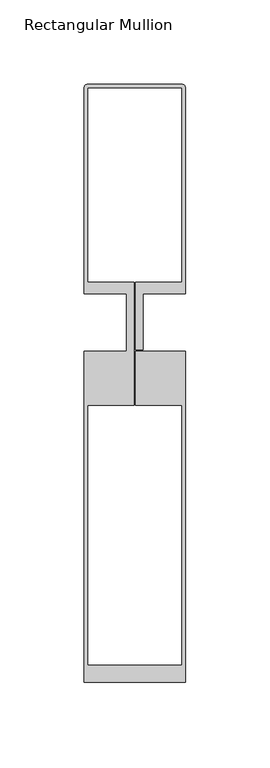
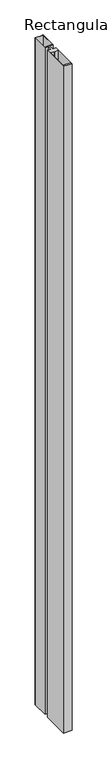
"""IFC4 building model written with IfcOpenShell, lengths in millimetres: member geometry, Rectangular Mullion : FMO60-200-S...FM60-120."""

from ifc_helpers import new_model, si_unit, point, frame, frame_2d, origin, place, context, project, spatial, polyline, circle_curve, trimmed, segment, composite_curve, outline, extrude, source, transform, mapped, element, save


def rectangular_mullion_3d548132(model_context):
    return source(origin(), model_context, "Body", "SweptSolid", [
        extrude(outline(composite_curve([segment(polyline([(-28.0, 141.0574739), (28.0, 141.0574739)]), True, "CONTINUOUS"), segment(trimmed(circle_curve(frame_2d((28.0, 139.0574739)), 2.0), [point((28.0, 141.0574739))], [point((30.0, 139.0574739))], False, "CARTESIAN"), True, "CONTINUOUS"), segment(polyline([(30.0, 139.0574739), (30.0, 17.0), (5.0, 17.0), (5.0, -16.2), (0.5, -16.2), (0.5, 23.8476589), (28.0000412, 23.8476589), (28.0000412, 139.0574739), (-28.0000412, 139.0574739), (-28.0000412, 23.8476589), (-0.5, 23.8476589), (-0.5, -49.0034642), (-28.0, -49.0034642), (-28.0, -203.009342), (28.0, -203.009342), (28.0, -49.0034642), (0.5, -49.0034642), (0.5, -17.0), (30.0, -17.0), (30.0, -213.009342), (-30.0, -213.009342), (-30.0, -17.0), (-5.0, -17.0), (-5.0, 17.0), (-30.0, 17.0), (-30.0, 139.0574739)]), True, "CONTINUOUS"), segment(trimmed(circle_curve(frame_2d((-28.0, 139.0574739)), 2.0), [point((-30.0, 139.0574739))], [point((-28.0, 141.0574739))], False, "CARTESIAN"), True, "CONTINUOUS")], self_intersect=False)), frame((0.0, 0.0, -5000.0), z_axis=(0.0, 0.0, 1.0), x_axis=(1.0, 0.0, 0.0)), (0.0, 0.0, 1.0), 5000.0),
    ])


if __name__ == "__main__":
    model = new_model("IFC4")
    model_context = context("Model", 3, world=origin())
    ifc_project = project(units=[si_unit("LENGTHUNIT", "METRE", prefix="MILLI")], contexts=[model_context])
    site = spatial("IfcSite", under=ifc_project)
    building = spatial("IfcBuilding", under=site)
    placement = place(None, origin())
    rectangular_mullion_shape = rectangular_mullion_3d548132(model_context)
    element("IfcMember", 1, ObjectType="Rectangular Mullion : FMO60-200-S...FM60-120", at=placement, inside=building, context=model_context, shape_type="MappedRepresentation", body=[
        mapped(rectangular_mullion_shape, transform((0.0, 0.0, 0.0), x_axis=(1.0, 0.0, 0.0), y_axis=(0.0, 1.0, 0.0), z_axis=(0.0, 0.0, 1.0))),
    ])
    save(model, "model.ifc")
